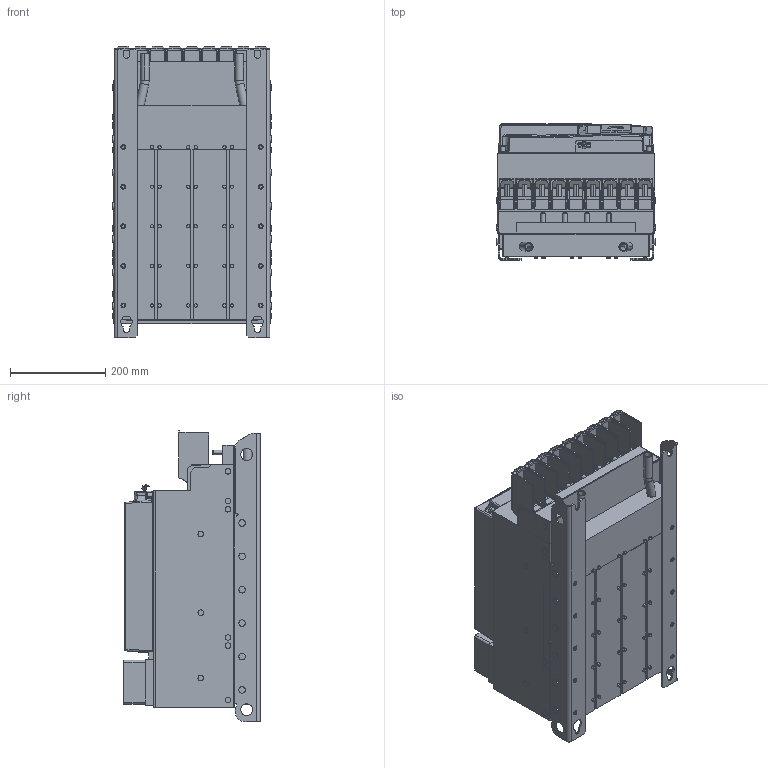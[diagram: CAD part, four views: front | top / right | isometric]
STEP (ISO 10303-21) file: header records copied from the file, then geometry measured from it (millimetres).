
FILE_DESCRIPTION (( 'STEP AP214' ), '1' );
FILE_NAME ('TK0 K0Z.STEP', '2023-11-20T07:58:49', ( '' ), ( '' ), 'SwSTEP 2.0', 'SolidWorks 2022', '' );
FILE_SCHEMA (( 'AUTOMOTIVE_DESIGN' ));
Length unit declared in the file: millimetre
Products named in the file (13): 10045475_000_Gehäusebaugruppe F6-7 (Kundenmodell); 10035735_000_Kundenmodell; Kundenmodell mit Zubehör^10077759_000; 10061502_000_Deckel (Kundenmodell); 10059764_000_Blindabdeckung (Kundenmodell); Kundenmodell^10061502_000; 10077759_000_ Leistungsteil + BW F6-7 TW0 (Kundenmodell); Kundenmodell^10059764_000; Kundenmodell^10035735_000; Kundenmodell^10045475_000_Gehäusebaugruppe ohne Lüfterkarte; 10043622_000_70F6 Klemme (Kundenmodell); Kundenmodell^10043622_000; TK0 K0Z
Assembly tree (12 placements, depth 4):
  TK0 K0Z
    10077759_000_ Leistungsteil + BW F6-7 TW0 (Kundenmodell)
      10043622_000_70F6 Klemme (Kundenmodell)
        Kundenmodell^10043622_000
      Kundenmodell mit Zubehör^10077759_000
    10045475_000_Gehäusebaugruppe F6-7 (Kundenmodell)
      10061502_000_Deckel (Kundenmodell)
        Kundenmodell^10061502_000
      Kundenmodell^10045475_000_Gehäusebaugruppe ohne Lüfterkarte
    10035735_000_Kundenmodell
      10059764_000_Blindabdeckung (Kundenmodell)
        Kundenmodell^10059764_000
      Kundenmodell^10035735_000
Bounding box: 335.4 x 285.9 x 610.76 mm (x, y, z)
Volume: 42665177.5 mm3; surface area: 2112432.6 mm2
Topology: 11 solids, 11 shells, 2772 faces, 7066 edges, 4340 vertices
Faces by surface type: plane 1381, cylinder 918, bspline 205, sphere 164, cone 52, torus 52
Entity records: 111810 total; most frequent: CARTESIAN_POINT 29719, ORIENTED_EDGE 17568, DIRECTION 16209, EDGE_CURVE 8784, VERTEX_POINT 5501, LINE 5461, VECTOR 5461, AXIS2_PLACEMENT_3D 5374
